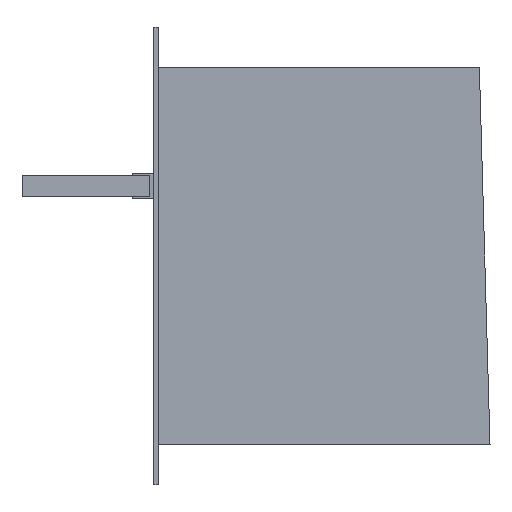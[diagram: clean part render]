
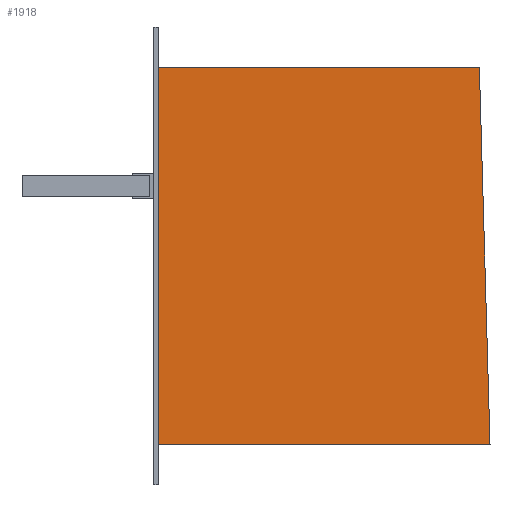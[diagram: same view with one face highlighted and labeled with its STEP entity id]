
A CAD part, left-side view. The second image highlights one B-rep face of the part: STEP entity #1918.
In plain terms, the highlighted planar face has unit normal (-1, 0, 0).
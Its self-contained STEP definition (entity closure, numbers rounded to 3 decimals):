
#54 = EDGE_CURVE ( 'NONE', #991, #1045, #1422, .T. ) ;
#91 = EDGE_CURVE ( 'NONE', #1891, #991, #177, .T. ) ;
#125 = CARTESIAN_POINT ( 'NONE',  ( -1641., -151., 88.5 ) ) ;
#177 = LINE ( 'NONE', #1019, #1749 ) ;
#324 = ORIENTED_EDGE ( 'NONE', *, *, #91, .T. ) ;
#349 = ORIENTED_EDGE ( 'NONE', *, *, #54, .T. ) ;
#392 = CARTESIAN_POINT ( 'NONE',  ( -1641., 0., -88.5 ) ) ;
#448 = DIRECTION ( 'NONE',  ( 0., 0., -1. ) ) ;
#524 = CARTESIAN_POINT ( 'NONE',  ( -1641., -156., -88.5 ) ) ;
#574 = LINE ( 'NONE', #1181, #1428 ) ;
#891 = DIRECTION ( 'NONE',  ( 0., 1., 0. ) ) ;
#936 = VERTEX_POINT ( 'NONE', #125 ) ;
#990 = DIRECTION ( 'NONE',  ( 0., 0.028, 1. ) ) ;
#991 = VERTEX_POINT ( 'NONE', #392 ) ;
#993 = VECTOR ( 'NONE', #1010, 1000. ) ;
#1010 = DIRECTION ( 'NONE',  ( 0., -1., 0. ) ) ;
#1019 = CARTESIAN_POINT ( 'NONE',  ( -1641., 0., 88.5 ) ) ;
#1023 = DIRECTION ( 'NONE',  ( 1., 0., 0. ) ) ;
#1045 = VERTEX_POINT ( 'NONE', #524 ) ;
#1181 = CARTESIAN_POINT ( 'NONE',  ( -1641., 0., 88.5 ) ) ;
#1208 = ORIENTED_EDGE ( 'NONE', *, *, #1507, .T. ) ;
#1218 = AXIS2_PLACEMENT_3D ( 'NONE', #1346, #1023, #1647 ) ;
#1258 = LINE ( 'NONE', #1448, #1853 ) ;
#1346 = CARTESIAN_POINT ( 'NONE',  ( -1641., 2., 107.5 ) ) ;
#1417 = CARTESIAN_POINT ( 'NONE',  ( -1641., 0., 88.5 ) ) ;
#1422 = LINE ( 'NONE', #1908, #993 ) ;
#1428 = VECTOR ( 'NONE', #891, 1000. ) ;
#1448 = CARTESIAN_POINT ( 'NONE',  ( -1641., -151., 88.5 ) ) ;
#1459 = EDGE_LOOP ( 'NONE', ( #349, #1570, #1208, #324 ) ) ;
#1507 = EDGE_CURVE ( 'NONE', #936, #1891, #574, .T. ) ;
#1570 = ORIENTED_EDGE ( 'NONE', *, *, #1860, .T. ) ;
#1647 = DIRECTION ( 'NONE',  ( 0., 0., -1. ) ) ;
#1749 = VECTOR ( 'NONE', #448, 1000. ) ;
#1853 = VECTOR ( 'NONE', #990, 1000. ) ;
#1860 = EDGE_CURVE ( 'NONE', #1045, #936, #1258, .T. ) ;
#1891 = VERTEX_POINT ( 'NONE', #1417 ) ;
#1908 = CARTESIAN_POINT ( 'NONE',  ( -1641., 0., -88.5 ) ) ;
#1918 = ADVANCED_FACE ( 'NONE', ( #1933 ), #1943, .F. ) ;
#1933 = FACE_OUTER_BOUND ( 'NONE', #1459, .T. ) ;
#1943 = PLANE ( 'NONE',  #1218 ) ;
